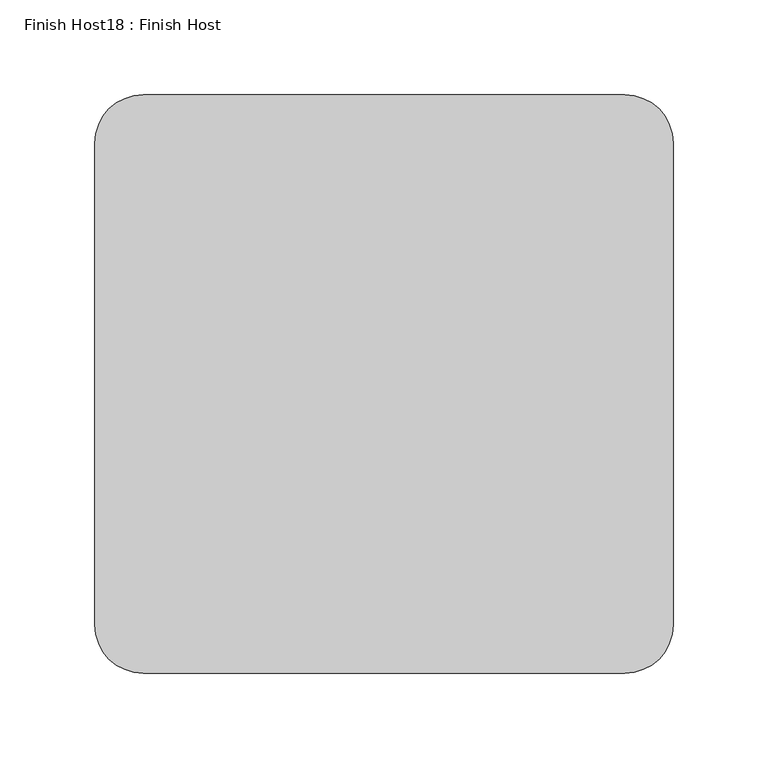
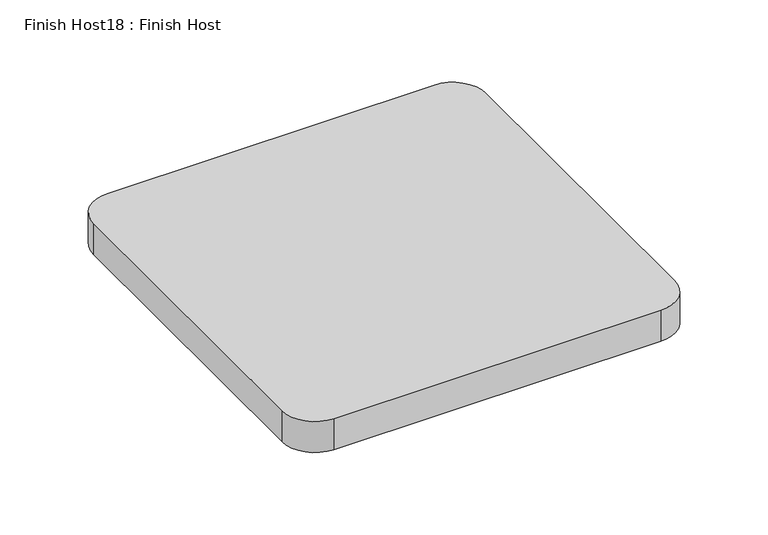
"""IFC4 building model written with IfcOpenShell, lengths in millimetres: proxy geometry, Finish Host18 : Finish Host."""

from ifc_helpers import new_model, si_unit, point, frame_2d, origin, origin_with_axes, place, context, project, spatial, polyline, circle_curve, trimmed, segment, composite_curve, outline, extrude, source, transform, mapped, element, save


def finish_host18_finish_host_26ebec59(model_context):
    return source(origin(), model_context, "Body", "SweptSolid", [
        extrude(outline(composite_curve([segment(polyline([(2409.3649374, 1413.7667263), (2409.3649374, 1667.7667263)]), True, "CONTINUOUS"), segment(trimmed(circle_curve(frame_2d((2434.7649374, 1667.7667263)), 25.4), [point((2409.3649374, 1667.7667263))], [point((2434.7649374, 1693.1667263))], False, "CARTESIAN"), True, "CONTINUOUS"), segment(polyline([(2434.7649374, 1693.1667263), (2688.7649374, 1693.1667263)]), True, "CONTINUOUS"), segment(trimmed(circle_curve(frame_2d((2688.7649374, 1667.7667263)), 25.4), [point((2688.7649374, 1693.1667263))], [point((2714.1649374, 1667.7667263))], False, "CARTESIAN"), True, "CONTINUOUS"), segment(polyline([(2714.1649374, 1667.7667263), (2714.1649374, 1413.7667263)]), True, "CONTINUOUS"), segment(trimmed(circle_curve(frame_2d((2688.7649374, 1413.7667263)), 25.4), [point((2714.1649374, 1413.7667263))], [point((2688.7649374, 1388.3667263))], False, "CARTESIAN"), True, "CONTINUOUS"), segment(polyline([(2688.7649374, 1388.3667263), (2434.7649374, 1388.3667263)]), True, "CONTINUOUS"), segment(trimmed(circle_curve(frame_2d((2434.7649374, 1413.7667263)), 25.4), [point((2434.7649374, 1388.3667263))], [point((2409.3649374, 1413.7667263))], False, "CARTESIAN"), True, "CONTINUOUS")], self_intersect=False)), origin_with_axes(), (0.0, 0.0, 1.0), 25.4),
    ])


if __name__ == "__main__":
    model = new_model("IFC4")
    model_context = context("Model", 3, world=origin())
    ifc_project = project(units=[si_unit("LENGTHUNIT", "METRE", prefix="MILLI")], contexts=[model_context])
    site = spatial("IfcSite", under=ifc_project)
    building = spatial("IfcBuilding", under=site)
    placement = place(None, origin())
    finish_host18_finish_host_shape = finish_host18_finish_host_26ebec59(model_context)
    element("IfcBuildingElementProxy", 1, Name="Finish Host18 : Finish Host", ObjectType="Finish Host18 : Finish Host", at=placement, inside=building, context=model_context, shape_type="MappedRepresentation", body=[
        mapped(finish_host18_finish_host_shape, transform((0.0, 0.0, 0.0), x_axis=(1.0, 0.0, 0.0), y_axis=(0.0, 1.0, 0.0), z_axis=(0.0, 0.0, 1.0))),
    ])
    save(model, "model.ifc")
